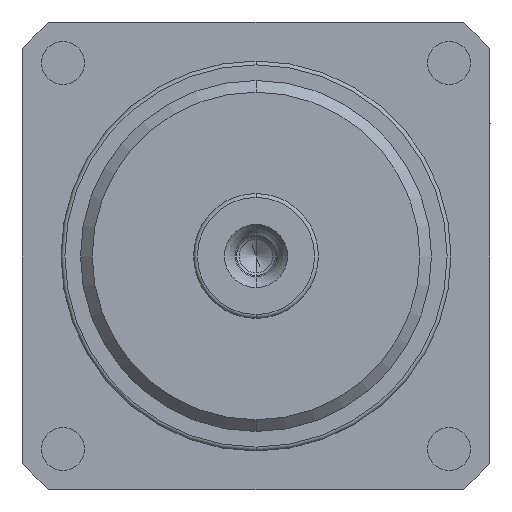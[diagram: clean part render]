
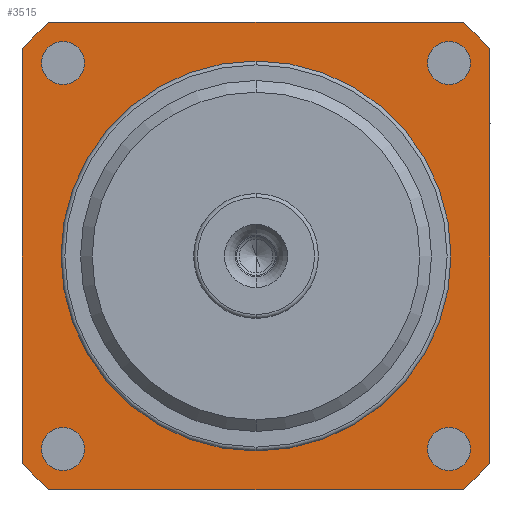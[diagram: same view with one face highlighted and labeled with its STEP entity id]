
A CAD part, left-side view. The second image highlights one B-rep face of the part: STEP entity #3515.
In plain terms, the highlighted planar face has unit normal (-1, 0, 0) as drawn and (0, 0, -1) by its records, which use the part's own axes.
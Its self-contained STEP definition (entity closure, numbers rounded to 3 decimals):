
#2489=CARTESIAN_POINT('',(24.749,-24.749,0.));
#2490=DIRECTION('',(0.,0.,1.));
#2491=DIRECTION('',(1.,0.,0.));
#2492=AXIS2_PLACEMENT_3D('',#2489,#2490,#2491);
#2494=CARTESIAN_POINT('',(24.749,-24.749,0.));
#2495=DIRECTION('',(0.,0.,1.));
#2496=DIRECTION('',(-1.,0.,0.));
#2497=AXIS2_PLACEMENT_3D('',#2494,#2495,#2496);
#2499=CARTESIAN_POINT('',(-24.749,-24.749,0.));
#2500=DIRECTION('',(0.,0.,1.));
#2501=DIRECTION('',(1.,0.,0.));
#2502=AXIS2_PLACEMENT_3D('',#2499,#2500,#2501);
#2504=CARTESIAN_POINT('',(-24.749,-24.749,0.));
#2505=DIRECTION('',(0.,0.,1.));
#2506=DIRECTION('',(-1.,0.,0.));
#2507=AXIS2_PLACEMENT_3D('',#2504,#2505,#2506);
#2509=CARTESIAN_POINT('',(-24.749,24.749,0.));
#2510=DIRECTION('',(0.,0.,1.));
#2511=DIRECTION('',(1.,0.,0.));
#2512=AXIS2_PLACEMENT_3D('',#2509,#2510,#2511);
#2514=CARTESIAN_POINT('',(-24.749,24.749,0.));
#2515=DIRECTION('',(0.,0.,1.));
#2516=DIRECTION('',(-1.,0.,0.));
#2517=AXIS2_PLACEMENT_3D('',#2514,#2515,#2516);
#2519=CARTESIAN_POINT('',(0.,0.,0.));
#2520=DIRECTION('',(0.,0.,1.));
#2521=DIRECTION('',(-0.75,-0.661,0.));
#2522=AXIS2_PLACEMENT_3D('',#2519,#2520,#2521);
#2524=DIRECTION('',(1.,0.,0.));
#2525=VECTOR('',#2524,52.915);
#2526=CARTESIAN_POINT('',(-26.458,-30.,0.));
#2527=LINE('',#2526,#2525);
#2528=CARTESIAN_POINT('',(0.,0.,0.));
#2529=DIRECTION('',(0.,0.,1.));
#2530=DIRECTION('',(0.661,-0.75,0.));
#2531=AXIS2_PLACEMENT_3D('',#2528,#2529,#2530);
#2533=DIRECTION('',(0.,1.,0.));
#2534=VECTOR('',#2533,52.915);
#2535=CARTESIAN_POINT('',(30.,-26.458,0.));
#2536=LINE('',#2535,#2534);
#2537=CARTESIAN_POINT('',(0.,0.,0.));
#2538=DIRECTION('',(0.,0.,1.));
#2539=DIRECTION('',(0.75,0.661,0.));
#2540=AXIS2_PLACEMENT_3D('',#2537,#2538,#2539);
#2542=DIRECTION('',(-1.,0.,0.));
#2543=VECTOR('',#2542,52.915);
#2544=CARTESIAN_POINT('',(26.458,30.,0.));
#2545=LINE('',#2544,#2543);
#2546=CARTESIAN_POINT('',(0.,0.,0.));
#2547=DIRECTION('',(0.,0.,1.));
#2548=DIRECTION('',(-0.661,0.75,0.));
#2549=AXIS2_PLACEMENT_3D('',#2546,#2547,#2548);
#2551=DIRECTION('',(0.,-1.,0.));
#2552=VECTOR('',#2551,52.915);
#2553=CARTESIAN_POINT('',(-30.,26.458,0.));
#2554=LINE('',#2553,#2552);
#2555=CARTESIAN_POINT('',(0.,0.,0.));
#2556=DIRECTION('',(0.,0.,1.));
#2557=DIRECTION('',(0.,-1.,0.));
#2558=AXIS2_PLACEMENT_3D('',#2555,#2556,#2557);
#2560=CARTESIAN_POINT('',(0.,0.,0.));
#2561=DIRECTION('',(0.,0.,1.));
#2562=DIRECTION('',(0.,1.,0.));
#2563=AXIS2_PLACEMENT_3D('',#2560,#2561,#2562);
#2565=CARTESIAN_POINT('',(24.749,24.749,0.));
#2566=DIRECTION('',(0.,0.,1.));
#2567=DIRECTION('',(1.,0.,0.));
#2568=AXIS2_PLACEMENT_3D('',#2565,#2566,#2567);
#2570=CARTESIAN_POINT('',(24.749,24.749,0.));
#2571=DIRECTION('',(0.,0.,1.));
#2572=DIRECTION('',(-1.,0.,0.));
#2573=AXIS2_PLACEMENT_3D('',#2570,#2571,#2572);
#3261=CARTESIAN_POINT('',(-30.,-26.458,0.));
#3262=CARTESIAN_POINT('',(-26.458,-30.,0.));
#3263=VERTEX_POINT('',#3261);
#3264=VERTEX_POINT('',#3262);
#3265=CARTESIAN_POINT('',(26.458,-30.,0.));
#3266=VERTEX_POINT('',#3265);
#3267=CARTESIAN_POINT('',(30.,-26.458,0.));
#3268=VERTEX_POINT('',#3267);
#3269=CARTESIAN_POINT('',(30.,26.458,0.));
#3270=VERTEX_POINT('',#3269);
#3271=CARTESIAN_POINT('',(26.458,30.,0.));
#3272=VERTEX_POINT('',#3271);
#3273=CARTESIAN_POINT('',(-26.458,30.,0.));
#3274=VERTEX_POINT('',#3273);
#3275=CARTESIAN_POINT('',(-30.,26.458,0.));
#3276=VERTEX_POINT('',#3275);
#3277=CARTESIAN_POINT('',(0.,-25.,0.));
#3278=CARTESIAN_POINT('',(0.,25.,0.));
#3279=VERTEX_POINT('',#3277);
#3280=VERTEX_POINT('',#3278);
#3393=CARTESIAN_POINT('',(27.499,24.749,0.));
#3394=CARTESIAN_POINT('',(21.999,24.749,0.));
#3395=VERTEX_POINT('',#3393);
#3396=VERTEX_POINT('',#3394);
#3401=CARTESIAN_POINT('',(-21.999,24.749,0.));
#3402=CARTESIAN_POINT('',(-27.499,24.749,0.));
#3403=VERTEX_POINT('',#3401);
#3404=VERTEX_POINT('',#3402);
#3409=CARTESIAN_POINT('',(-21.999,-24.749,0.));
#3410=CARTESIAN_POINT('',(-27.499,-24.749,0.));
#3411=VERTEX_POINT('',#3409);
#3412=VERTEX_POINT('',#3410);
#3417=CARTESIAN_POINT('',(27.499,-24.749,0.));
#3418=CARTESIAN_POINT('',(21.999,-24.749,0.));
#3419=VERTEX_POINT('',#3417);
#3420=VERTEX_POINT('',#3418);
#3463=CARTESIAN_POINT('',(0.,0.,0.));
#3464=DIRECTION('',(0.,0.,1.));
#3465=DIRECTION('',(0.,1.,0.));
#3466=AXIS2_PLACEMENT_3D('',#3463,#3464,#3465);
#3467=PLANE('',#3466);
#3469=ORIENTED_EDGE('',*,*,#3468,.T.);
#3471=ORIENTED_EDGE('',*,*,#3470,.T.);
#3473=ORIENTED_EDGE('',*,*,#3472,.T.);
#3475=ORIENTED_EDGE('',*,*,#3474,.T.);
#3477=ORIENTED_EDGE('',*,*,#3476,.T.);
#3479=ORIENTED_EDGE('',*,*,#3478,.T.);
#3481=ORIENTED_EDGE('',*,*,#3480,.T.);
#3483=ORIENTED_EDGE('',*,*,#3482,.T.);
#3484=EDGE_LOOP('',(#3469,#3471,#3473,#3475,#3477,#3479,#3481,#3483));
#3485=FACE_OUTER_BOUND('',#3484,.F.);
#3487=ORIENTED_EDGE('',*,*,#3486,.F.);
#3489=ORIENTED_EDGE('',*,*,#3488,.F.);
#3490=EDGE_LOOP('',(#3487,#3489));
#3491=FACE_BOUND('',#3490,.F.);
#3493=ORIENTED_EDGE('',*,*,#3492,.F.);
#3495=ORIENTED_EDGE('',*,*,#3494,.F.);
#3496=EDGE_LOOP('',(#3493,#3495));
#3497=FACE_BOUND('',#3496,.F.);
#3499=ORIENTED_EDGE('',*,*,#3498,.F.);
#3501=ORIENTED_EDGE('',*,*,#3500,.F.);
#3502=EDGE_LOOP('',(#3499,#3501));
#3503=FACE_BOUND('',#3502,.F.);
#3504=ORIENTED_EDGE('',*,*,#3452,.F.);
#3506=ORIENTED_EDGE('',*,*,#3505,.F.);
#3507=EDGE_LOOP('',(#3504,#3506));
#3508=FACE_BOUND('',#3507,.F.);
#3510=ORIENTED_EDGE('',*,*,#3509,.F.);
#3512=ORIENTED_EDGE('',*,*,#3511,.F.);
#3513=EDGE_LOOP('',(#3510,#3512));
#3514=FACE_BOUND('',#3513,.F.);
#3515=ADVANCED_FACE('',(#3485,#3491,#3497,#3503,#3508,#3514),#3467,.F.);
#2493=CIRCLE('',#2492,2.75);
#2498=CIRCLE('',#2497,2.75);
#2503=CIRCLE('',#2502,2.75);
#2508=CIRCLE('',#2507,2.75);
#2513=CIRCLE('',#2512,2.75);
#2518=CIRCLE('',#2517,2.75);
#2523=CIRCLE('',#2522,40.);
#2532=CIRCLE('',#2531,40.);
#2541=CIRCLE('',#2540,40.);
#2550=CIRCLE('',#2549,40.);
#2559=CIRCLE('',#2558,25.);
#2564=CIRCLE('',#2563,25.);
#2569=CIRCLE('',#2568,2.75);
#2574=CIRCLE('',#2573,2.75);
#3452=EDGE_CURVE('',#3279,#3280,#2559,.T.);
#3468=EDGE_CURVE('',#3263,#3264,#2523,.T.);
#3470=EDGE_CURVE('',#3264,#3266,#2527,.T.);
#3472=EDGE_CURVE('',#3266,#3268,#2532,.T.);
#3474=EDGE_CURVE('',#3268,#3270,#2536,.T.);
#3476=EDGE_CURVE('',#3270,#3272,#2541,.T.);
#3478=EDGE_CURVE('',#3272,#3274,#2545,.T.);
#3480=EDGE_CURVE('',#3274,#3276,#2550,.T.);
#3482=EDGE_CURVE('',#3276,#3263,#2554,.T.);
#3486=EDGE_CURVE('',#3411,#3412,#2503,.T.);
#3488=EDGE_CURVE('',#3412,#3411,#2508,.T.);
#3492=EDGE_CURVE('',#3403,#3404,#2513,.T.);
#3494=EDGE_CURVE('',#3404,#3403,#2518,.T.);
#3498=EDGE_CURVE('',#3419,#3420,#2493,.T.);
#3500=EDGE_CURVE('',#3420,#3419,#2498,.T.);
#3505=EDGE_CURVE('',#3280,#3279,#2564,.T.);
#3509=EDGE_CURVE('',#3395,#3396,#2569,.T.);
#3511=EDGE_CURVE('',#3396,#3395,#2574,.T.);
